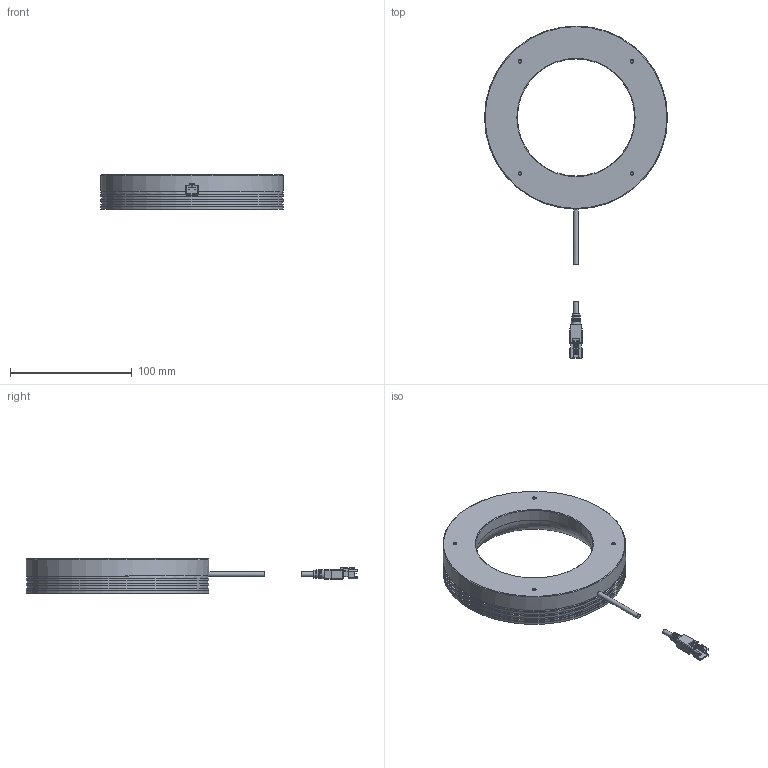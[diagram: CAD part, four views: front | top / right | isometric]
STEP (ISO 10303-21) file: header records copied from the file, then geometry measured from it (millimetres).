
FILE_DESCRIPTION(('STEP AP214'),'1');
FILE_NAME('VL-MUL150.stp','2026-04-09T06:57:42',(' '),(' '),'Spatial InterOp 3D',' ',' ');
FILE_SCHEMA(('AUTOMOTIVE_DESIGN { 1 0 10303 214 1 1 1 1 }'));
Length unit declared in the file: metre
Products named in the file (3): VL-MUL150; Component1; Component2
Assembly tree (2 placements, depth 2):
  VL-MUL150
    Component1
    Component2
Bounding box: 150 x 272.13 x 28 mm (x, y, z)
Volume: 268949.2 mm3; surface area: 45864.5 mm2
Topology: 2 solids, 2 shells, 190 faces, 491 edges, 315 vertices
Faces by surface type: plane 118, cylinder 47, cone 12, torus 5, bspline 4, sphere 4
Full cylindrical faces by diameter (mm): 2.5 x4, 3.9 x2, 96 x1, 148 x3, 150 x5
Entity records: 10203 total; most frequent: CARTESIAN_POINT 2166, DIRECTION 891, ORIENTED_EDGE 886, STYLED_ITEM 596, PRESENTATION_STYLE_ASSIGNMENT 596, COLOUR_RGB 596, EDGE_CURVE 443, CURVE_STYLE 404
